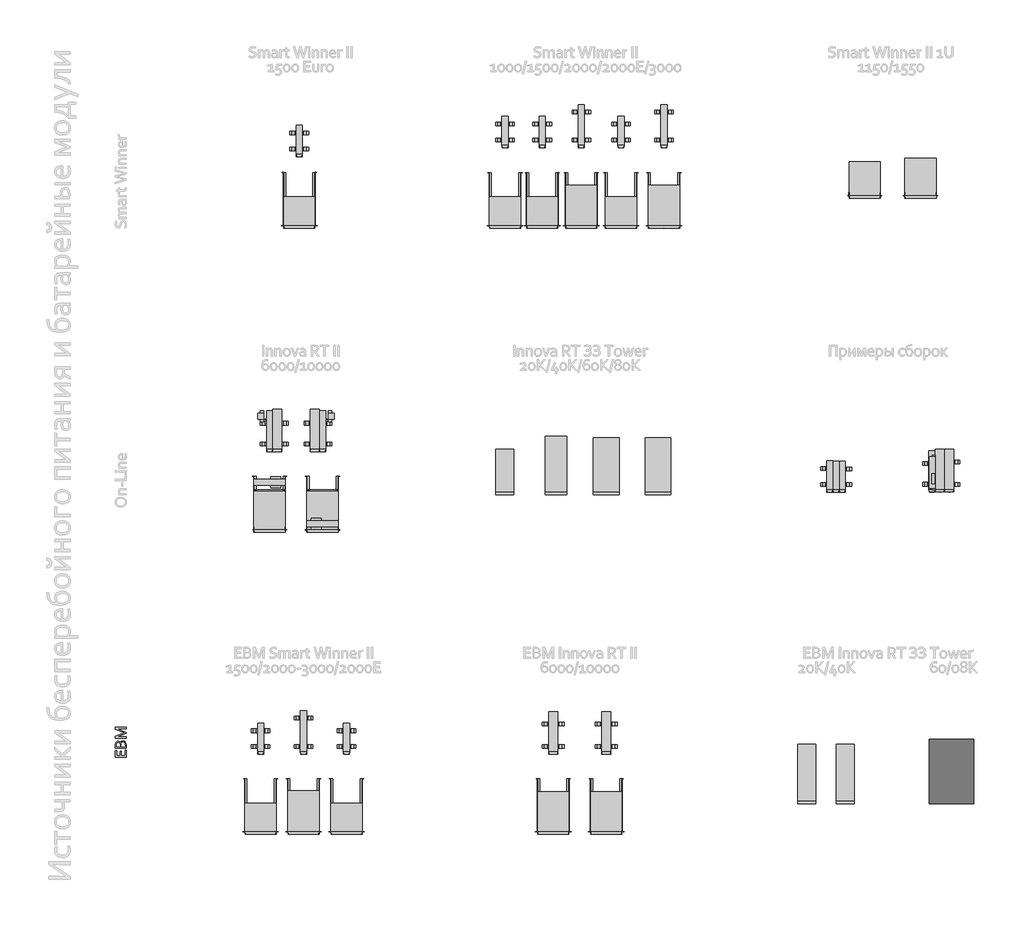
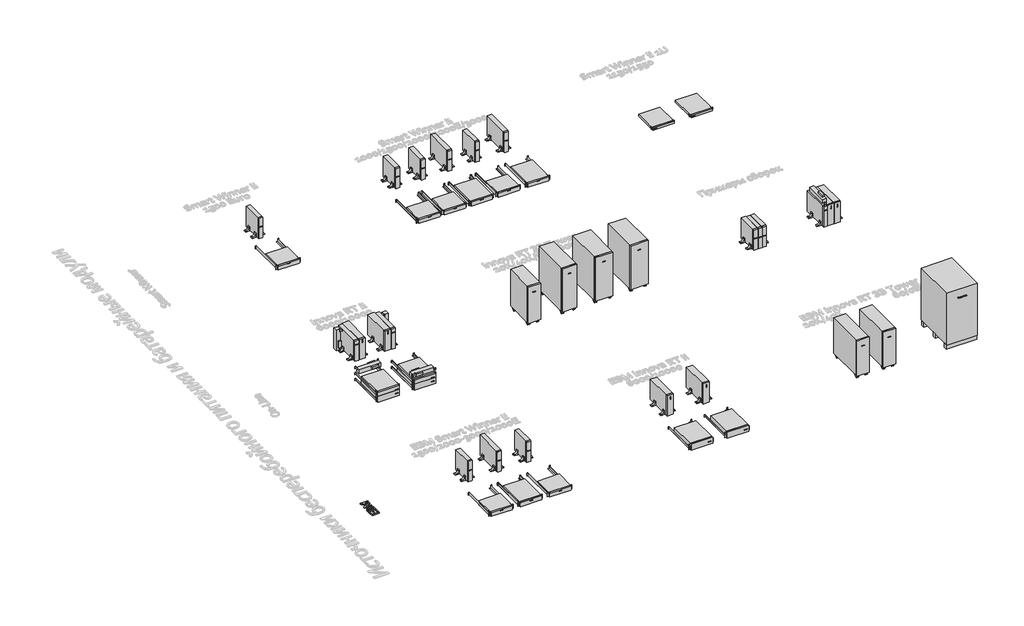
# One storey, part 1 of 10: 56 proxies.
"""IFC4 building model written with IfcOpenShell, lengths in millimetres."""

from ifc_helpers import new_model, si_unit, origin, origin_with_axes, place, context, project, spatial, polyline, outline, extrude, transform, mapped, element, save
from components import electrical_equipment_e0649b80, electrical_equipment_31c24b1d, electrical_equipment_5c134813, electrical_equipment_8a4f9bc7, electrical_equipment_ef5bf3b2, electrical_equipment_7b7a9afe, electrical_equipment_1216eed7, electrical_equipment_90de4895, electrical_equipment_7cab53b0, electrical_equipment_fa8cc59b, electrical_equipment_69b62ba1, electrical_equipment_9dc947d1, electrical_equipment_16744219, electrical_equipment_cfbb87c9, electrical_equipment_9298a4e4, electrical_equipment_7cbba243, electrical_equipment_558c85cb, electrical_equipment_400f7965, electrical_equipment_d4b9a717, electrical_equipment_90e6ebf0, electrical_equipment_517d518b, electrical_equipment_acadec03, electrical_equipment_45f5dc8f, electrical_equipment_fab1fcb4, electrical_equipment_f85adaec, electrical_equipment_f777224a, electrical_equipment_d9fb5ba6, electrical_equipment_9c128fde

model = new_model("IFC4")

# Units and contexts
model_context = context("Model", 3, world=origin())
ifc_project = project(units=[si_unit("LENGTHUNIT", "METRE", prefix="MILLI")], contexts=[model_context])

# Site, building, storey
site = spatial("IfcSite", under=ifc_project)
building = spatial("IfcBuilding", under=site)
storey = spatial("IfcBuildingStorey", under=building, Name="Этаж 01", Elevation=0.0)

# Proxies
placement = place(None, origin())
element("IfcBuildingElementProxy", 1, Name="150 мм Corbel", ObjectType="150 мм Corbel", at=placement, inside=storey, context=model_context, shape_type="SweptSolid", body=[
    extrude(outline(polyline([(2510.3948077, -8927.0837924), (2510.3948077, -8850.1706353), (2527.1949512, -8850.1706353), (2527.1949512, -8946.6839599), (2375.9936594, -8946.6839599), (2375.9936594, -8854.3269208), (2392.7938029, -8854.3269208), (2392.7938029, -8927.0837924), (2440.3942096, -8927.0837924), (2440.3942096, -8862.3769896), (2457.1943532, -8862.3769896), (2457.1943532, -8927.0837924), (2510.3948077, -8927.0837924)])), origin_with_axes(), (0.0, 0.0, 1.0), 20.0),
    extrude(outline(polyline([(2447.8317732, -8749.3697741), (2451.8349324, -8736.8790424), (2458.8568674, -8727.472712), (2469.0288293, -8721.741413), (2482.4820692, -8719.8820222), (2493.7477905, -8721.39141), (2505.1885132, -8726.422703), (2515.4261007, -8735.6540319), (2523.0824161, -8749.8072778), (2526.2761934, -8764.2011508), (2527.1949512, -8783.188813), (2527.1949512, -8820.6828834), (2375.9936594, -8820.6828834), (2375.9936594, -8784.238822), (2376.1686609, -8775.1606194), (2376.6717902, -8767.6355552), (2377.5030473, -8761.2480006), (2378.6624322, -8755.6698279), (2383.8687267, -8743.2009714), (2391.7219188, -8733.6633899), (2402.0907574, -8727.6039631), (2414.7127402, -8725.48207), (2425.1909547, -8726.772706), (2434.4441588, -8730.9289915), (2442.0348487, -8738.3228047), (2447.8317732, -8749.3697741)]), holes=[polyline([(2440.3942096, -8773.9574842), (2439.8910803, -8764.923032), (2438.4254428, -8758.0323481), (2429.8284944, -8746.0447457), (2416.0252514, -8742.2822135), (2402.7032626, -8746.2197472), (2394.9813216, -8758.5573526), (2393.2969322, -8768.1824348), (2392.7938029, -8781.0887951), (2392.7938029, -8801.0827159), (2440.3942096, -8801.0827159), (2440.3942096, -8773.9574842)]), polyline([(2457.1943532, -8801.0827159), (2510.3948077, -8801.0827159), (2510.3948077, -8779.7762839), (2509.6510514, -8765.6886635), (2507.2885312, -8754.6635693), (2502.8916186, -8746.2197472), (2496.9415678, -8740.6415745), (2490.0290087, -8737.6009235), (2482.6133204, -8736.6821657), (2474.4101253, -8737.6665491), (2467.5413166, -8740.8603264), (2462.2256462, -8746.7010013), (2458.6818659, -8755.7135783), (2457.5443562, -8763.1511418), (2457.1943532, -8773.4762301), (2457.1943532, -8801.0827159)])]), origin_with_axes(), (0.0, 0.0, 1.0), 20.0),
    extrude(outline(polyline([(2527.1949512, -8603.637279), (2527.1949512, -8612.1248515), (2436.8941797, -8649.1376677), (2396.3375832, -8664.5377993), (2454.0880766, -8663.8815437), (2527.1949512, -8663.8815437), (2527.1949512, -8683.4817112), (2375.9936594, -8683.4817112), (2375.9936594, -8657.012735), (2461.5256402, -8621.5749322), (2496.9196926, -8608.1873179), (2461.5256402, -8594.2309486), (2375.9936594, -8558.7493955), (2375.9936594, -8532.2804193), (2527.1949512, -8532.2804193), (2527.1949512, -8551.8805868), (2454.0880766, -8551.8805868), (2396.3375832, -8550.3055733), (2436.8941797, -8566.6244627), (2527.1949512, -8603.637279)])), origin_with_axes(), (0.0, 0.0, 1.0), 20.0),
])
electrical_equipment_shape = electrical_equipment_e0649b80(model_context)
element("IfcBuildingElementProxy", 2, Name="IPPON_ИБП_Smart Winner II Euro_1500ВА : Smart Winner II Euro 1500 ВА", ObjectType="IPPON_ИБП_Smart Winner II Euro_1500ВА : Smart Winner II Euro 1500 ВА", at=placement, inside=storey, context=model_context, shape_type="MappedRepresentation", body=[
    mapped(electrical_equipment_shape, transform((4944.0994169, -556.6244001, 0.0), x_axis=(1.0, 0.0, 0.0), y_axis=(0.0, 1.0, 0.0), z_axis=(0.0, 0.0, 1.0))),
])
element("IfcBuildingElementProxy", 3, Name="IPPON_ИБП_Smart Winner II_1000_1500_2000_2000E_3000ВА : Smart Winner II 1500 ВА", ObjectType="IPPON_ИБП_Smart Winner II_1000_1500_2000_2000E_3000ВА : Smart Winner II 1500 ВА", at=placement, inside=storey, context=model_context, shape_type="MappedRepresentation", body=[
    mapped(electrical_equipment_shape, transform((8339.0343388, -431.8742501, 0.0), x_axis=(1.0, 0.0, 0.0), y_axis=(0.0, 1.0, 0.0), z_axis=(0.0, 0.0, 1.0))),
])
element("IfcBuildingElementProxy", 4, Name="IPPON_ИБП_Smart Winner II_1000_1500_2000_2000E_3000ВА : Smart Winner II 1000 ВА", ObjectType="IPPON_ИБП_Smart Winner II_1000_1500_2000_2000E_3000ВА : Smart Winner II 1000 ВА", at=placement, inside=storey, context=model_context, shape_type="MappedRepresentation", body=[
    mapped(electrical_equipment_shape, transform((7819.0343388, -431.8742501, 0.0), x_axis=(1.0, 0.0, 0.0), y_axis=(0.0, 1.0, 0.0), z_axis=(0.0, 0.0, 1.0))),
])
electrical_equipment_2_shape = electrical_equipment_31c24b1d(model_context)
element("IfcBuildingElementProxy", 5, Name="IPPON_ИБП_Smart Winner II_1000_1500_2000_2000E_3000ВА : Smart Winner II 2000 ВА", ObjectType="IPPON_ИБП_Smart Winner II_1000_1500_2000_2000E_3000ВА : Smart Winner II 2000 ВА", at=placement, inside=storey, context=model_context, shape_type="MappedRepresentation", body=[
    mapped(electrical_equipment_2_shape, transform((8884.0343388, -431.8742501, 0.0), x_axis=(1.0, 0.0, 0.0), y_axis=(0.0, 1.0, 0.0), z_axis=(0.0, 0.0, 1.0))),
])
element("IfcBuildingElementProxy", 6, Name="IPPON_ИБП_Smart Winner II_1000_1500_2000_2000E_3000ВА : Smart Winner II 2000 ВА (E)", ObjectType="IPPON_ИБП_Smart Winner II_1000_1500_2000_2000E_3000ВА : Smart Winner II 2000 ВА (E)", at=placement, inside=storey, context=model_context, shape_type="MappedRepresentation", body=[
    mapped(electrical_equipment_shape, transform((9439.0343388, -431.8742501, 0.0), x_axis=(1.0, 0.0, 0.0), y_axis=(0.0, 1.0, 0.0), z_axis=(0.0, 0.0, 1.0))),
])
element("IfcBuildingElementProxy", 7, Name="IPPON_ИБП_Smart Winner II_1000_1500_2000_2000E_3000ВА : Smart Winner II 3000 ВА", ObjectType="IPPON_ИБП_Smart Winner II_1000_1500_2000_2000E_3000ВА : Smart Winner II 3000 ВА", at=placement, inside=storey, context=model_context, shape_type="MappedRepresentation", body=[
    mapped(electrical_equipment_2_shape, transform((10039.0343388, -431.8742501, 0.0), x_axis=(1.0, 0.0, 0.0), y_axis=(0.0, 1.0, 0.0), z_axis=(0.0, 0.0, 1.0))),
])
electrical_equipment_3_shape = electrical_equipment_5c134813(model_context)
element("IfcBuildingElementProxy", 8, Name="Вл_Монтажный комплект : Вл_Монтажный комплект", ObjectType="Вл_Монтажный комплект : Вл_Монтажный комплект", at=placement, inside=storey, context=model_context, shape_type="MappedRepresentation", body=[
    mapped(electrical_equipment_3_shape, transform((4944.0994169, -1523.6244001, 0.0), x_axis=(1.0, 0.0, 0.0), y_axis=(0.0, 1.0, 0.0), z_axis=(0.0, 0.0, 1.0))),
])
element("IfcBuildingElementProxy", 9, Name="Вл_Монтажный комплект : Вл_Монтажный комплект", ObjectType="Вл_Монтажный комплект : Вл_Монтажный комплект", at=placement, inside=storey, context=model_context, shape_type="MappedRepresentation", body=[
    mapped(electrical_equipment_3_shape, transform((8339.0343388, -1523.8742501, 0.0), x_axis=(1.0, 0.0, 0.0), y_axis=(0.0, 1.0, 0.0), z_axis=(0.0, 0.0, 1.0))),
])
element("IfcBuildingElementProxy", 10, Name="Вл_Монтажный комплект : Вл_Монтажный комплект", ObjectType="Вл_Монтажный комплект : Вл_Монтажный комплект", at=placement, inside=storey, context=model_context, shape_type="MappedRepresentation", body=[
    mapped(electrical_equipment_3_shape, transform((7819.0343388, -1523.8742501, 0.0), x_axis=(1.0, 0.0, 0.0), y_axis=(0.0, 1.0, 0.0), z_axis=(0.0, 0.0, 1.0))),
])
element("IfcBuildingElementProxy", 11, Name="Вл_Монтажный комплект : Вл_Монтажный комплект", ObjectType="Вл_Монтажный комплект : Вл_Монтажный комплект", at=placement, inside=storey, context=model_context, shape_type="MappedRepresentation", body=[
    mapped(electrical_equipment_3_shape, transform((8884.0343388, -1523.8742501, 0.0), x_axis=(1.0, 0.0, 0.0), y_axis=(0.0, 1.0, 0.0), z_axis=(0.0, 0.0, 1.0))),
])
element("IfcBuildingElementProxy", 12, Name="Вл_Монтажный комплект : Вл_Монтажный комплект", ObjectType="Вл_Монтажный комплект : Вл_Монтажный комплект", at=placement, inside=storey, context=model_context, shape_type="MappedRepresentation", body=[
    mapped(electrical_equipment_3_shape, transform((9439.0343388, -1523.8742501, 0.0), x_axis=(1.0, 0.0, 0.0), y_axis=(0.0, 1.0, 0.0), z_axis=(0.0, 0.0, 1.0))),
])
element("IfcBuildingElementProxy", 13, Name="Вл_Монтажный комплект : Вл_Монтажный комплект", ObjectType="Вл_Монтажный комплект : Вл_Монтажный комплект", at=placement, inside=storey, context=model_context, shape_type="MappedRepresentation", body=[
    mapped(electrical_equipment_3_shape, transform((10039.0343388, -1523.8742501, 0.0), x_axis=(1.0, 0.0, 0.0), y_axis=(0.0, 1.0, 0.0), z_axis=(0.0, 0.0, 1.0))),
])
element("IfcBuildingElementProxy", 14, Name="Вл_Монтажный комплект : Вл_Монтажный комплект", ObjectType="Вл_Монтажный комплект : Вл_Монтажный комплект", at=placement, inside=storey, context=model_context, shape_type="MappedRepresentation", body=[
    mapped(electrical_equipment_3_shape, transform((5004.9005059, -9990.0779342, 0.0), x_axis=(1.0, 0.0, 0.0), y_axis=(0.0, 1.0, 0.0), z_axis=(0.0, 0.0, 1.0))),
])
element("IfcBuildingElementProxy", 15, Name="Вл_Монтажный комплект : Вл_Монтажный комплект", ObjectType="Вл_Монтажный комплект : Вл_Монтажный комплект", at=placement, inside=storey, context=model_context, shape_type="MappedRepresentation", body=[
    mapped(electrical_equipment_3_shape, transform((5604.9005059, -9990.0779342, 0.0), x_axis=(1.0, 0.0, 0.0), y_axis=(0.0, 1.0, 0.0), z_axis=(0.0, 0.0, 1.0))),
])
element("IfcBuildingElementProxy", 16, Name="Вл_Монтажный комплект : Вл_Монтажный комплект", ObjectType="Вл_Монтажный комплект : Вл_Монтажный комплект", at=placement, inside=storey, context=model_context, shape_type="MappedRepresentation", body=[
    mapped(electrical_equipment_3_shape, transform((4404.9005059, -9990.0779342, 0.0), x_axis=(1.0, 0.0, 0.0), y_axis=(0.0, 1.0, 0.0), z_axis=(0.0, 0.0, 1.0))),
])
electrical_equipment_4_shape = electrical_equipment_8a4f9bc7(model_context)
element("IfcBuildingElementProxy", 17, Name="IPPON_EBM_Smart Winner II_1500_2000_2000E_3000ВА : EBM Smart Winner II 1500 ВА", ObjectType="IPPON_EBM_Smart Winner II_1500_2000_2000E_3000ВА : EBM Smart Winner II 1500 ВА", at=placement, inside=storey, context=model_context, shape_type="MappedRepresentation", body=[
    mapped(electrical_equipment_4_shape, transform((4404.9005059, -8903.0779342, 0.0), x_axis=(1.0, 0.0, 0.0), y_axis=(0.0, 1.0, 0.0), z_axis=(0.0, 0.0, 1.0))),
])
electrical_equipment_5_shape = electrical_equipment_ef5bf3b2(model_context)
element("IfcBuildingElementProxy", 18, Name="IPPON_EBM_Smart Winner II_1500_2000_2000E_3000ВА : EBM Smart Winner II 2000/3000 ВА", ObjectType="IPPON_EBM_Smart Winner II_1500_2000_2000E_3000ВА : EBM Smart Winner II 2000/3000 ВА", at=placement, inside=storey, context=model_context, shape_type="MappedRepresentation", body=[
    mapped(electrical_equipment_5_shape, transform((5004.9005059, -8903.0779342, 0.0), x_axis=(1.0, 0.0, 0.0), y_axis=(0.0, 1.0, 0.0), z_axis=(0.0, 0.0, 1.0))),
])
element("IfcBuildingElementProxy", 19, Name="IPPON_EBM_Smart Winner II_1500_2000_2000E_3000ВА : EBM Smart Winner II 2000 ВА (E)", ObjectType="IPPON_EBM_Smart Winner II_1500_2000_2000E_3000ВА : EBM Smart Winner II 2000 ВА (E)", at=placement, inside=storey, context=model_context, shape_type="MappedRepresentation", body=[
    mapped(electrical_equipment_4_shape, transform((5604.9005059, -8903.0779342, 0.0), x_axis=(1.0, 0.0, 0.0), y_axis=(0.0, 1.0, 0.0), z_axis=(0.0, 0.0, 1.0))),
])
electrical_equipment_6_shape = electrical_equipment_7b7a9afe(model_context)
element("IfcBuildingElementProxy", 20, Name="IPPON_ИБП_Smart Winner II_1000_1500_2000_2000E_3000ВА : Smart Winner II 1500 ВА", ObjectType="IPPON_ИБП_Smart Winner II_1000_1500_2000_2000E_3000ВА : Smart Winner II 1500 ВА", at=placement, inside=storey, context=model_context, shape_type="MappedRepresentation", body=[
    mapped(electrical_equipment_6_shape, transform((8339.0343388, -1556.8742501, 0.0), x_axis=(1.0, 0.0, 0.0), y_axis=(0.0, 1.0, 0.0), z_axis=(0.0, 0.0, 1.0))),
])
element("IfcBuildingElementProxy", 21, Name="IPPON_ИБП_Smart Winner II_1000_1500_2000_2000E_3000ВА : Smart Winner II 1000 ВА", ObjectType="IPPON_ИБП_Smart Winner II_1000_1500_2000_2000E_3000ВА : Smart Winner II 1000 ВА", at=placement, inside=storey, context=model_context, shape_type="MappedRepresentation", body=[
    mapped(electrical_equipment_6_shape, transform((7819.0343388, -1556.8742501, 0.0), x_axis=(1.0, 0.0, 0.0), y_axis=(0.0, 1.0, 0.0), z_axis=(0.0, 0.0, 1.0))),
])
electrical_equipment_7_shape = electrical_equipment_1216eed7(model_context)
element("IfcBuildingElementProxy", 22, Name="IPPON_ИБП_Smart Winner II_1000_1500_2000_2000E_3000ВА : Smart Winner II 2000 ВА", ObjectType="IPPON_ИБП_Smart Winner II_1000_1500_2000_2000E_3000ВА : Smart Winner II 2000 ВА", at=placement, inside=storey, context=model_context, shape_type="MappedRepresentation", body=[
    mapped(electrical_equipment_7_shape, transform((8884.0343388, -1556.8742501, 0.0), x_axis=(1.0, 0.0, 0.0), y_axis=(0.0, 1.0, 0.0), z_axis=(0.0, 0.0, 1.0))),
])
element("IfcBuildingElementProxy", 23, Name="IPPON_ИБП_Smart Winner II_1000_1500_2000_2000E_3000ВА : Smart Winner II 2000 ВА (E)", ObjectType="IPPON_ИБП_Smart Winner II_1000_1500_2000_2000E_3000ВА : Smart Winner II 2000 ВА (E)", at=placement, inside=storey, context=model_context, shape_type="MappedRepresentation", body=[
    mapped(electrical_equipment_6_shape, transform((9439.0343388, -1556.8742501, 0.0), x_axis=(1.0, 0.0, 0.0), y_axis=(0.0, 1.0, 0.0), z_axis=(0.0, 0.0, 1.0))),
])
element("IfcBuildingElementProxy", 24, Name="IPPON_ИБП_Smart Winner II_1000_1500_2000_2000E_3000ВА : Smart Winner II 3000 ВА", ObjectType="IPPON_ИБП_Smart Winner II_1000_1500_2000_2000E_3000ВА : Smart Winner II 3000 ВА", at=placement, inside=storey, context=model_context, shape_type="MappedRepresentation", body=[
    mapped(electrical_equipment_7_shape, transform((10039.0343388, -1556.8742501, 0.0), x_axis=(1.0, 0.0, 0.0), y_axis=(0.0, 1.0, 0.0), z_axis=(0.0, 0.0, 1.0))),
])
electrical_equipment_8_shape = electrical_equipment_90de4895(model_context)
element("IfcBuildingElementProxy", 25, Name="IPPON_EBM_Smart Winner II_1500_2000_2000E_3000ВА : EBM Smart Winner II 2000/3000 ВА", ObjectType="IPPON_EBM_Smart Winner II_1500_2000_2000E_3000ВА : EBM Smart Winner II 2000/3000 ВА", at=placement, inside=storey, context=model_context, shape_type="MappedRepresentation", body=[
    mapped(electrical_equipment_8_shape, transform((5004.9005059, -10023.0779342, 0.0), x_axis=(1.0, 0.0, 0.0), y_axis=(0.0, 1.0, 0.0), z_axis=(0.0, 0.0, 1.0))),
])
electrical_equipment_9_shape = electrical_equipment_7cab53b0(model_context)
element("IfcBuildingElementProxy", 26, Name="IPPON_EBM_Smart Winner II_1500_2000_2000E_3000ВА : EBM Smart Winner II 2000 ВА (E)", ObjectType="IPPON_EBM_Smart Winner II_1500_2000_2000E_3000ВА : EBM Smart Winner II 2000 ВА (E)", at=placement, inside=storey, context=model_context, shape_type="MappedRepresentation", body=[
    mapped(electrical_equipment_9_shape, transform((5604.9005059, -10023.0779342, 0.0), x_axis=(1.0, 0.0, 0.0), y_axis=(0.0, 1.0, 0.0), z_axis=(0.0, 0.0, 1.0))),
])
element("IfcBuildingElementProxy", 27, Name="IPPON_EBM_Smart Winner II_1500_2000_2000E_3000ВА : EBM Smart Winner II 1500 ВА", ObjectType="IPPON_EBM_Smart Winner II_1500_2000_2000E_3000ВА : EBM Smart Winner II 1500 ВА", at=placement, inside=storey, context=model_context, shape_type="MappedRepresentation", body=[
    mapped(electrical_equipment_9_shape, transform((4404.9005059, -10023.0779342, 0.0), x_axis=(1.0, 0.0, 0.0), y_axis=(0.0, 1.0, 0.0), z_axis=(0.0, 0.0, 1.0))),
])
electrical_equipment_10_shape = electrical_equipment_fa8cc59b(model_context)
element("IfcBuildingElementProxy", 28, Name="IPPON_ИБП_Smart Winner II 1U_1150_1550ВА : Smart Winner II 1150 ВА (1U)", ObjectType="IPPON_ИБП_Smart Winner II 1U_1150_1550ВА : Smart Winner II 1150 ВА (1U)", at=placement, inside=storey, context=model_context, shape_type="MappedRepresentation", body=[
    mapped(electrical_equipment_10_shape, transform((12843.1274779, -1136.8742501, 0.0), x_axis=(1.0, 0.0, 0.0), y_axis=(0.0, 1.0, 0.0), z_axis=(0.0, 0.0, 1.0))),
])
electrical_equipment_11_shape = electrical_equipment_69b62ba1(model_context)
element("IfcBuildingElementProxy", 29, Name="Вл_Монтажный комплект_43мм : Вл_Монтажный комплект_43мм", ObjectType="Вл_Монтажный комплект_43мм : Вл_Монтажный комплект_43мм", at=placement, inside=storey, context=model_context, shape_type="MappedRepresentation", body=[
    mapped(electrical_equipment_11_shape, transform((8492.4308558, -9990.0779342, 0.0), x_axis=(1.0, 0.0, 0.0), y_axis=(0.0, 1.0, 0.0), z_axis=(0.0, 0.0, 1.0))),
])
element("IfcBuildingElementProxy", 30, Name="Вл_Монтажный комплект_43мм : Вл_Монтажный комплект_43мм", ObjectType="Вл_Монтажный комплект_43мм : Вл_Монтажный комплект_43мм", at=placement, inside=storey, context=model_context, shape_type="MappedRepresentation", body=[
    mapped(electrical_equipment_11_shape, transform((9232.4308558, -9990.0779342, 0.0), x_axis=(1.0, 0.0, 0.0), y_axis=(0.0, 1.0, 0.0), z_axis=(0.0, 0.0, 1.0))),
])
electrical_equipment_12_shape = electrical_equipment_9dc947d1(model_context)
element("IfcBuildingElementProxy", 31, Name="IPPON_ИБП_Innova RT II_60000_10000ВА_Вертикальный : Innova TR II 6000 ВА", ObjectType="IPPON_ИБП_Innova RT II_60000_10000ВА_Вертикальный : Innova TR II 6000 ВА", at=placement, inside=storey, context=model_context, shape_type="MappedRepresentation", body=[
    mapped(electrical_equipment_12_shape, transform((4530.2117998, -4680.0691348, 0.0), x_axis=(1.0, 0.0, 0.0), y_axis=(0.0, 1.0, 0.0), z_axis=(0.0, 0.0, 1.0))),
])
element("IfcBuildingElementProxy", 32, Name="IPPON_ИБП_Smart Winner II Euro_1500ВА : Smart Winner II Euro 1500 ВА", ObjectType="IPPON_ИБП_Smart Winner II Euro_1500ВА : Smart Winner II Euro 1500 ВА", at=placement, inside=storey, context=model_context, shape_type="MappedRepresentation", body=[
    mapped(electrical_equipment_6_shape, transform((4944.0994169, -1556.6244001, 0.0), x_axis=(1.0, 0.0, 0.0), y_axis=(0.0, 1.0, 0.0), z_axis=(0.0, 0.0, 1.0))),
])
electrical_equipment_13_shape = electrical_equipment_16744219(model_context)
element("IfcBuildingElementProxy", 33, Name="IPPON_ИБП_Innova RT II_60000_10000ВА_Горизонтальный : Innova RT II 6000 ВА", ObjectType="IPPON_ИБП_Innova RT II_60000_10000ВА_Горизонтальный : Innova RT II 6000 ВА", at=placement, inside=storey, context=model_context, shape_type="MappedRepresentation", body=[
    mapped(electrical_equipment_13_shape, transform((4530.2117998, -5805.2134969, 0.0), x_axis=(1.0, 0.0, 0.0), y_axis=(0.0, 1.0, 0.0), z_axis=(0.0, 0.0, 1.0))),
])
electrical_equipment_14_shape = electrical_equipment_cfbb87c9(model_context)
element("IfcBuildingElementProxy", 34, Name="Вл_Монтажный комплект_43мм : Вл_Монтажный комплект_43мм", ObjectType="Вл_Монтажный комплект_43мм : Вл_Монтажный комплект_43мм", at=placement, inside=storey, context=model_context, shape_type="MappedRepresentation", body=[
    mapped(electrical_equipment_14_shape, transform((4530.2117998, -5772.2134969, 0.0), x_axis=(1.0, 0.0, 0.0), y_axis=(0.0, 1.0, 0.0), z_axis=(0.0, 0.0, 1.0))),
])
element("IfcBuildingElementProxy", 35, Name="Вл_Монтажный комплект_43мм : Вл_Монтажный комплект_43мм", ObjectType="Вл_Монтажный комплект_43мм : Вл_Монтажный комплект_43мм", at=placement, inside=storey, context=model_context, shape_type="MappedRepresentation", body=[
    mapped(electrical_equipment_14_shape, transform((4530.2117998, -5772.2134969, -129.5), x_axis=(1.0, 0.0, 0.0), y_axis=(0.0, 1.0, 0.0), z_axis=(0.0, 0.0, 1.0))),
])
element("IfcBuildingElementProxy", 36, Name="Вл_Монтажный комплект_43мм : Вл_Монтажный комплект_43мм", ObjectType="Вл_Монтажный комплект_43мм : Вл_Монтажный комплект_43мм", at=placement, inside=storey, context=model_context, shape_type="MappedRepresentation", body=[
    mapped(electrical_equipment_14_shape, transform((5270.2117998, -5772.2134969, 0.0), x_axis=(1.0, 0.0, 0.0), y_axis=(0.0, 1.0, 0.0), z_axis=(0.0, 0.0, 1.0))),
])
element("IfcBuildingElementProxy", 37, Name="Вл_Монтажный комплект_43мм : Вл_Монтажный комплект_43мм", ObjectType="Вл_Монтажный комплект_43мм : Вл_Монтажный комплект_43мм", at=placement, inside=storey, context=model_context, shape_type="MappedRepresentation", body=[
    mapped(electrical_equipment_14_shape, transform((5270.2117998, -5772.2134969, -129.5), x_axis=(1.0, 0.0, 0.0), y_axis=(0.0, 1.0, 0.0), z_axis=(0.0, 0.0, 1.0))),
])
electrical_equipment_15_shape = electrical_equipment_9298a4e4(model_context)
element("IfcBuildingElementProxy", 38, Name="IPPON_EBM_Innova RT II_6000_10000ВА : Innova RT II 6000 ВА", ObjectType="IPPON_EBM_Innova RT II_6000_10000ВА : Innova RT II 6000 ВА", at=placement, inside=storey, context=model_context, shape_type="MappedRepresentation", body=[
    mapped(electrical_equipment_15_shape, transform((8492.4308558, -8903.0779342, 0.0), x_axis=(1.0, 0.0, 0.0), y_axis=(0.0, 1.0, 0.0), z_axis=(0.0, 0.0, 1.0))),
])
element("IfcBuildingElementProxy", 39, Name="IPPON_EBM_Innova RT II_6000_10000ВА : Innova RT II 6000 ВА", ObjectType="IPPON_EBM_Innova RT II_6000_10000ВА : Innova RT II 6000 ВА", at=placement, inside=storey, context=model_context, shape_type="MappedRepresentation", body=[
    mapped(electrical_equipment_15_shape, transform((14020.6855319, -5242.0417113, 0.0), x_axis=(1.0, 0.0, 0.0), y_axis=(0.0, 1.0, 0.0), z_axis=(0.0, 0.0, 1.0))),
])
element("IfcBuildingElementProxy", 40, Name="IPPON_EBM_Innova RT II_6000_10000ВА : Innova RT II 10000 ВА", ObjectType="IPPON_EBM_Innova RT II_6000_10000ВА : Innova RT II 10000 ВА", at=placement, inside=storey, context=model_context, shape_type="MappedRepresentation", body=[
    mapped(electrical_equipment_15_shape, transform((9232.4308558, -8903.0779342, 0.0), x_axis=(1.0, 0.0, 0.0), y_axis=(0.0, 1.0, 0.0), z_axis=(0.0, 0.0, 1.0))),
])
electrical_equipment_16_shape = electrical_equipment_7cbba243(model_context)
element("IfcBuildingElementProxy", 41, Name="IPPON_EBM_Innova RT II_6000_10000ВА : Innova RT II 6000 ВА", ObjectType="IPPON_EBM_Innova RT II_6000_10000ВА : Innova RT II 6000 ВА", at=placement, inside=storey, context=model_context, shape_type="MappedRepresentation", body=[
    mapped(electrical_equipment_16_shape, transform((8492.4308558, -10023.0779342, 0.0), x_axis=(1.0, 0.0, 0.0), y_axis=(0.0, 1.0, 0.0), z_axis=(0.0, 0.0, 1.0))),
])
element("IfcBuildingElementProxy", 42, Name="IPPON_EBM_Innova RT II_6000_10000ВА : Innova RT II 10000 ВА", ObjectType="IPPON_EBM_Innova RT II_6000_10000ВА : Innova RT II 10000 ВА", at=placement, inside=storey, context=model_context, shape_type="MappedRepresentation", body=[
    mapped(electrical_equipment_16_shape, transform((9232.4308558, -10023.0779342, 0.0), x_axis=(1.0, 0.0, 0.0), y_axis=(0.0, 1.0, 0.0), z_axis=(0.0, 0.0, 1.0))),
])
electrical_equipment_17_shape = electrical_equipment_558c85cb(model_context)
element("IfcBuildingElementProxy", 43, Name="IPPON_ИБП_Innova RT II_60000_10000ВА_Вертикальный : Innova TR II 10000 ВА", ObjectType="IPPON_ИБП_Innova RT II_60000_10000ВА_Вертикальный : Innova TR II 10000 ВА", at=placement, inside=storey, context=model_context, shape_type="MappedRepresentation", body=[
    mapped(electrical_equipment_17_shape, transform((5270.2117998, -4680.0691348, 0.0), x_axis=(1.0, 0.0, 0.0), y_axis=(0.0, 1.0, 0.0), z_axis=(0.0, 0.0, 1.0))),
])
electrical_equipment_18_shape = electrical_equipment_400f7965(model_context)
element("IfcBuildingElementProxy", 44, Name="IPPON_ИБП_Innova RT II_60000_10000ВА_Горизонтальный : Innova RT II 10000 ВА", ObjectType="IPPON_ИБП_Innova RT II_60000_10000ВА_Горизонтальный : Innova RT II 10000 ВА", at=placement, inside=storey, context=model_context, shape_type="MappedRepresentation", body=[
    mapped(electrical_equipment_18_shape, transform((5270.2117998, -5805.2134969, 0.0), x_axis=(1.0, 0.0, 0.0), y_axis=(0.0, 1.0, 0.0), z_axis=(0.0, 0.0, 1.0))),
])
electrical_equipment_19_shape = electrical_equipment_d4b9a717(model_context)
element("IfcBuildingElementProxy", 45, Name="IPPON_ИБП_Innova RT 33 Tower_20000_40000_60000_80000ВА : Innova RT 33 Tower 20000 ВА", ObjectType="IPPON_ИБП_Innova RT 33 Tower_20000_40000_60000_80000ВА : Innova RT 33 Tower 20000 ВА", at=placement, inside=storey, context=model_context, shape_type="MappedRepresentation", body=[
    mapped(electrical_equipment_19_shape, transform((7812.0720388, -5278.4405616, 0.0), x_axis=(1.0, 0.0, 0.0), y_axis=(0.0, 1.0, 0.0), z_axis=(0.0, 0.0, 1.0))),
])
electrical_equipment_20_shape = electrical_equipment_90e6ebf0(model_context)
element("IfcBuildingElementProxy", 46, Name="IPPON_ИБП_Innova RT 33 Tower_20000_40000_60000_80000ВА : Innova RT 33 Tower 40000 ВА", ObjectType="IPPON_ИБП_Innova RT 33 Tower_20000_40000_60000_80000ВА : Innova RT 33 Tower 40000 ВА", at=placement, inside=storey, context=model_context, shape_type="MappedRepresentation", body=[
    mapped(electrical_equipment_20_shape, transform((8529.7193692, -5278.4405616, 0.0), x_axis=(1.0, 0.0, 0.0), y_axis=(0.0, 1.0, 0.0), z_axis=(0.0, 0.0, 1.0))),
])
electrical_equipment_21_shape = electrical_equipment_517d518b(model_context)
element("IfcBuildingElementProxy", 47, Name="IPPON_ИБП_Innova RT 33 Tower_20000_40000_60000_80000ВА : Innova RT 33 Tower 60000 ВА", ObjectType="IPPON_ИБП_Innova RT 33 Tower_20000_40000_60000_80000ВА : Innova RT 33 Tower 60000 ВА", at=placement, inside=storey, context=model_context, shape_type="MappedRepresentation", body=[
    mapped(electrical_equipment_21_shape, transform((9233.8077506, -5278.4405616, 0.0), x_axis=(1.0, 0.0, 0.0), y_axis=(0.0, 1.0, 0.0), z_axis=(0.0, 0.0, 1.0))),
])
element("IfcBuildingElementProxy", 48, Name="IPPON_ИБП_Innova RT 33 Tower_20000_40000_60000_80000ВА : Innova RT 33 Tower 80000 ВА", ObjectType="IPPON_ИБП_Innova RT 33 Tower_20000_40000_60000_80000ВА : Innova RT 33 Tower 80000 ВА", at=placement, inside=storey, context=model_context, shape_type="MappedRepresentation", body=[
    mapped(electrical_equipment_21_shape, transform((9954.8998697, -5278.4405616, 0.0), x_axis=(1.0, 0.0, 0.0), y_axis=(0.0, 1.0, 0.0), z_axis=(0.0, 0.0, 1.0))),
])
electrical_equipment_22_shape = electrical_equipment_acadec03(model_context)
element("IfcBuildingElementProxy", 49, Name="IPPON_EBM_Innova RT 33 Tower_20000_40000ВА : EBM Innova RT 33 Tower 20000 ВА", ObjectType="IPPON_EBM_Innova RT 33 Tower_20000_40000ВА : EBM Innova RT 33 Tower 20000 ВА", at=placement, inside=storey, context=model_context, shape_type="MappedRepresentation", body=[
    mapped(electrical_equipment_22_shape, transform((12033.3286556, -9598.1231458, 0.0), x_axis=(1.0, 0.0, 0.0), y_axis=(0.0, 1.0, 0.0), z_axis=(0.0, 0.0, 1.0))),
])
element("IfcBuildingElementProxy", 50, Name="IPPON_EBM_Innova RT 33 Tower_20000_40000ВА : EBM Innova RT 33 Tower 40000 ВА", ObjectType="IPPON_EBM_Innova RT 33 Tower_20000_40000ВА : EBM Innova RT 33 Tower 40000 ВА", at=placement, inside=storey, context=model_context, shape_type="MappedRepresentation", body=[
    mapped(electrical_equipment_22_shape, transform((12571.700961, -9598.1231458, 0.0), x_axis=(1.0, 0.0, 0.0), y_axis=(0.0, 1.0, 0.0), z_axis=(0.0, 0.0, 1.0))),
])
electrical_equipment_23_shape = electrical_equipment_45f5dc8f(model_context)
element("IfcBuildingElementProxy", 51, Name="IPPON_EBM_Innova RT 33 Tower_60000-80000ВА : EBM Innova RT 33 Tower 60000/80000 ВА", ObjectType="IPPON_EBM_Innova RT 33 Tower_60000-80000ВА : EBM Innova RT 33 Tower 60000/80000 ВА", at=placement, inside=storey, context=model_context, shape_type="MappedRepresentation", body=[
    mapped(electrical_equipment_23_shape, transform((14056.0970116, -9598.1231458, 0.0), x_axis=(1.0, 0.0, 0.0), y_axis=(0.0, 1.0, 0.0), z_axis=(0.0, 0.0, 1.0))),
])
electrical_equipment_24_shape = electrical_equipment_fab1fcb4(model_context)
element("IfcBuildingElementProxy", 52, Name="IPPON_EBM_Smart Winner II_1500_2000_2000E_3000ВА : EBM Smart Winner II 1500 ВА", ObjectType="IPPON_EBM_Smart Winner II_1500_2000_2000E_3000ВА : EBM Smart Winner II 1500 ВА", at=placement, inside=storey, context=model_context, shape_type="MappedRepresentation", body=[
    mapped(electrical_equipment_24_shape, transform((12443.0286459, -5244.7370799, 0.0), x_axis=(1.0, 0.0, 0.0), y_axis=(0.0, 1.0, 0.0), z_axis=(0.0, 0.0, 1.0))),
])
electrical_equipment_25_shape = electrical_equipment_f85adaec(model_context)
element("IfcBuildingElementProxy", 53, Name="IPPON_EBM_Smart Winner II_1500_2000_2000E_3000ВА : EBM Smart Winner II 1500 ВА", ObjectType="IPPON_EBM_Smart Winner II_1500_2000_2000E_3000ВА : EBM Smart Winner II 1500 ВА", at=placement, inside=storey, context=model_context, shape_type="MappedRepresentation", body=[
    mapped(electrical_equipment_25_shape, transform((12529.5286459, -5244.7370799, 0.0), x_axis=(1.0, 0.0, 0.0), y_axis=(0.0, 1.0, 0.0), z_axis=(0.0, 0.0, 1.0))),
])
electrical_equipment_26_shape = electrical_equipment_f777224a(model_context)
element("IfcBuildingElementProxy", 54, Name="IPPON_ИБП_Smart Winner II_1000_1500_2000_2000E_3000ВА : Smart Winner II 1500 ВА", ObjectType="IPPON_ИБП_Smart Winner II_1000_1500_2000_2000E_3000ВА : Smart Winner II 1500 ВА", at=placement, inside=storey, context=model_context, shape_type="MappedRepresentation", body=[
    mapped(electrical_equipment_26_shape, transform((12356.5286459, -5244.7370799, 0.0), x_axis=(1.0, 0.0, 0.0), y_axis=(0.0, 1.0, 0.0), z_axis=(0.0, 0.0, 1.0))),
])
electrical_equipment_27_shape = electrical_equipment_d9fb5ba6(model_context)
element("IfcBuildingElementProxy", 55, Name="IPPON_ИБП_Innova RT II_60000_10000ВА_Вертикальный : Innova TR II 6000 ВА", ObjectType="IPPON_ИБП_Innova RT II_60000_10000ВА_Вертикальный : Innova TR II 6000 ВА", at=placement, inside=storey, context=model_context, shape_type="MappedRepresentation", body=[
    mapped(electrical_equipment_27_shape, transform((13783.4355319, -5242.0417113, 0.0), x_axis=(1.0, 0.0, 0.0), y_axis=(0.0, 1.0, 0.0), z_axis=(0.0, 0.0, 1.0))),
])
electrical_equipment_28_shape = electrical_equipment_9c128fde(model_context)
element("IfcBuildingElementProxy", 56, Name="IPPON_ИБП_Smart Winner II 1U_1150_1550ВА : Smart Winner II 1550 ВА (1U)", ObjectType="IPPON_ИБП_Smart Winner II 1U_1150_1550ВА : Smart Winner II 1550 ВА (1U)", at=placement, inside=storey, context=model_context, shape_type="MappedRepresentation", body=[
    mapped(electrical_equipment_28_shape, transform((13623.1274779, -1136.8742501, 0.0), x_axis=(1.0, 0.0, 0.0), y_axis=(0.0, 1.0, 0.0), z_axis=(0.0, 0.0, 1.0))),
])

save(model, "model.ifc")
